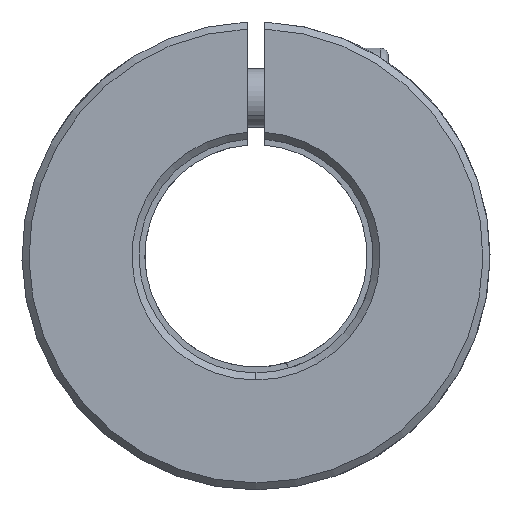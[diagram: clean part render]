
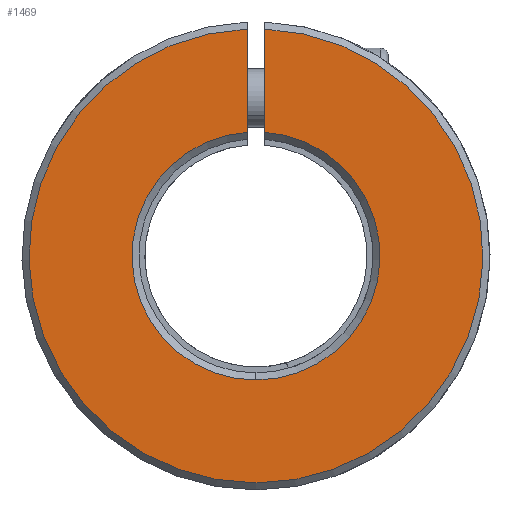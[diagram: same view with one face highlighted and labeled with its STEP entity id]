
A CAD part, front view. The second image highlights one B-rep face of the part: STEP entity #1469.
In plain terms, the highlighted planar face has unit normal (0, -1, 0).
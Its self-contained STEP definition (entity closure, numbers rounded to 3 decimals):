
#81 = DIRECTION ( 'NONE',  ( 0., 0., 1. ) ) ;
#171 = DIRECTION ( 'NONE',  ( 0., 1., 0. ) ) ;
#653 = EDGE_CURVE ( 'NONE', #4491, #1986, #2241, .T. ) ;
#685 = EDGE_CURVE ( 'NONE', #2704, #5557, #1769, .T. ) ;
#927 = FACE_OUTER_BOUND ( 'NONE', #1827, .T. ) ;
#1076 = VERTEX_POINT ( 'NONE', #5622 ) ;
#1173 = ORIENTED_EDGE ( 'NONE', *, *, #653, .T. ) ;
#1238 = VECTOR ( 'NONE', #1601, 1000. ) ;
#1469 = ADVANCED_FACE ( 'NONE', ( #927 ), #3671, .F. ) ;
#1522 = ORIENTED_EDGE ( 'NONE', *, *, #685, .T. ) ;
#1573 = ORIENTED_EDGE ( 'NONE', *, *, #4773, .T. ) ;
#1601 = DIRECTION ( 'NONE',  ( 0., 0., 1. ) ) ;
#1769 = CIRCLE ( 'NONE', #3450, 10.6 ) ;
#1827 = EDGE_LOOP ( 'NONE', ( #3187, #1522, #4081, #1573, #1173 ) ) ;
#1986 = VERTEX_POINT ( 'NONE', #3944 ) ;
#2054 = CARTESIAN_POINT ( 'NONE',  ( 0.75, -25., 10.573 ) ) ;
#2055 = CARTESIAN_POINT ( 'NONE',  ( 0., -25., 0. ) ) ;
#2171 = VECTOR ( 'NONE', #2185, 1000. ) ;
#2185 = DIRECTION ( 'NONE',  ( 0., 0., -1. ) ) ;
#2241 = CIRCLE ( 'NONE', #4116, 19.4 ) ;
#2544 = CARTESIAN_POINT ( 'NONE',  ( -0.75, -25., -1. ) ) ;
#2569 = DIRECTION ( 'NONE',  ( 0., 0., 1. ) ) ;
#2573 = EDGE_CURVE ( 'NONE', #5557, #1076, #4399, .T. ) ;
#2639 = LINE ( 'NONE', #5367, #2171 ) ;
#2704 = VERTEX_POINT ( 'NONE', #2054 ) ;
#2720 = CARTESIAN_POINT ( 'NONE',  ( 0., -25., 0. ) ) ;
#3160 = CARTESIAN_POINT ( 'NONE',  ( -0.75, -25., 19.385 ) ) ;
#3187 = ORIENTED_EDGE ( 'NONE', *, *, #5058, .T. ) ;
#3196 = CARTESIAN_POINT ( 'NONE',  ( 0., -25., 0. ) ) ;
#3450 = AXIS2_PLACEMENT_3D ( 'NONE', #3196, #3561, #4981 ) ;
#3561 = DIRECTION ( 'NONE',  ( 0., 1., 0. ) ) ;
#3671 = PLANE ( 'NONE',  #4469 ) ;
#3736 = CARTESIAN_POINT ( 'NONE',  ( 0., -25., 0. ) ) ;
#3848 = DIRECTION ( 'NONE',  ( 0., -1., 0. ) ) ;
#3944 = CARTESIAN_POINT ( 'NONE',  ( 0.75, -25., 19.385 ) ) ;
#4081 = ORIENTED_EDGE ( 'NONE', *, *, #2573, .T. ) ;
#4116 = AXIS2_PLACEMENT_3D ( 'NONE', #2055, #3848, #2569 ) ;
#4275 = LINE ( 'NONE', #2544, #1238 ) ;
#4399 = CIRCLE ( 'NONE', #5252, 10.6 ) ;
#4469 = AXIS2_PLACEMENT_3D ( 'NONE', #2720, #4503, #81 ) ;
#4491 = VERTEX_POINT ( 'NONE', #3160 ) ;
#4503 = DIRECTION ( 'NONE',  ( 0., 1., 0. ) ) ;
#4580 = DIRECTION ( 'NONE',  ( 0., 0., 1. ) ) ;
#4773 = EDGE_CURVE ( 'NONE', #1076, #4491, #4275, .T. ) ;
#4981 = DIRECTION ( 'NONE',  ( 0., 0., 1. ) ) ;
#5058 = EDGE_CURVE ( 'NONE', #1986, #2704, #2639, .T. ) ;
#5252 = AXIS2_PLACEMENT_3D ( 'NONE', #3736, #171, #4580 ) ;
#5367 = CARTESIAN_POINT ( 'NONE',  ( 0.75, -25., -1. ) ) ;
#5379 = CARTESIAN_POINT ( 'NONE',  ( 0., -25., -10.6 ) ) ;
#5557 = VERTEX_POINT ( 'NONE', #5379 ) ;
#5622 = CARTESIAN_POINT ( 'NONE',  ( -0.75, -25., 10.573 ) ) ;
